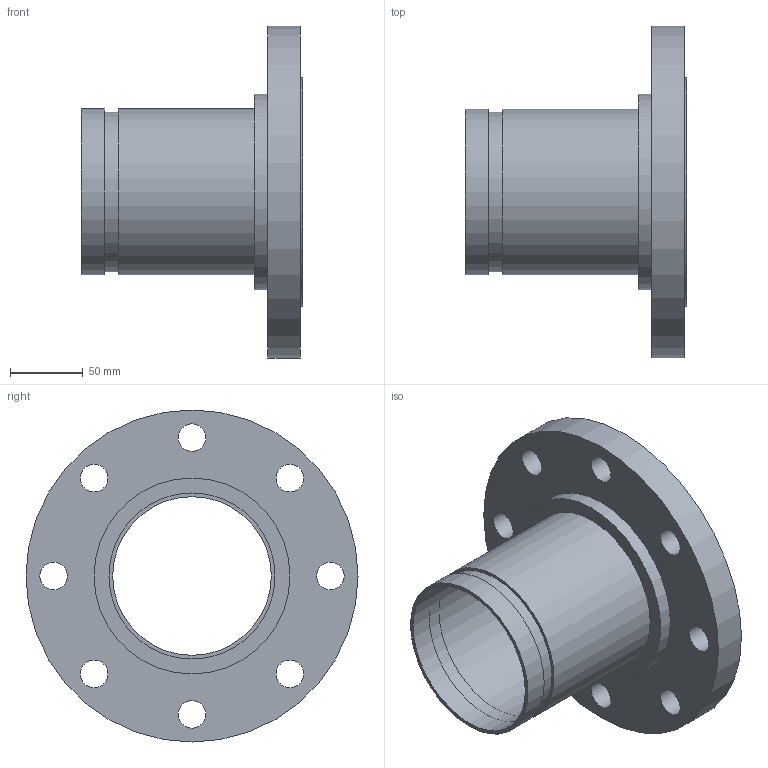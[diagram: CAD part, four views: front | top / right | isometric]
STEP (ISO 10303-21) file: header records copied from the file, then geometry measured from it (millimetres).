
FILE_DESCRIPTION(/* description */ ('VIC No 445R FLANGE ADAPTER NIPPE (ANSI)','CAx-IF Rec.Pracs.---Representation and Presentation of Product Manufacturing Information (PMI)---4.0---2014-10-13'),/* implementation_level */ '2;1');
FILE_NAME(/* name */ 'C:\Users\kkamble\AppData\Roaming\Autodesk\ApplicationPlugins\Back Up\Victaulic_SS-OGS_Flanged Adapter Nipple_CL 150 RF_Style 445R (OGSxFLG)\Victaulic_SS-OGS_Flanged Adapter Nipple_CL 150 RF_Style 445R (OGSxFLG)_4 (100).stp',/* time_stamp */ '2020-08-27T09:31:08+05:00',/* author */ ('jbrannon'),/* organization */ ('Victaulic'),/* preprocessor_version */ 'ST-DEVELOPER v17.2',/* originating_system */ 'Autodesk Inventor 2019',/* authorisation */ '');
FILE_SCHEMA (('AP242_MANAGED_MODEL_BASED_3D_ENGINEERING_MIM_LF { 1 0 10303 442 1 1 4 }'));
Length unit declared in the file: inch
Products named in the file (1): 445R-04.0
Bounding box: 152.4 x 228.6 x 228.6 mm (x, y, z)
Volume: 818288.7 mm3; surface area: 186714.2 mm2
Topology: 1 solids, 1 shells, 22 faces, 59 edges, 44 vertices
Faces by surface type: cylinder 15, plane 7
Full cylindrical faces by diameter (mm): 19.05 x8, 109.22 x1, 110.084 x1, 114.3 x2, 134.874 x1, 157.226 x1, 228.6 x1
Entity records: 929 total; most frequent: DIRECTION 175, CARTESIAN_POINT 143, ORIENTED_EDGE 118, AXIS2_PLACEMENT_3D 80, EDGE_CURVE 59, EDGE_LOOP 45, CIRCLE 44, VERTEX_POINT 44
